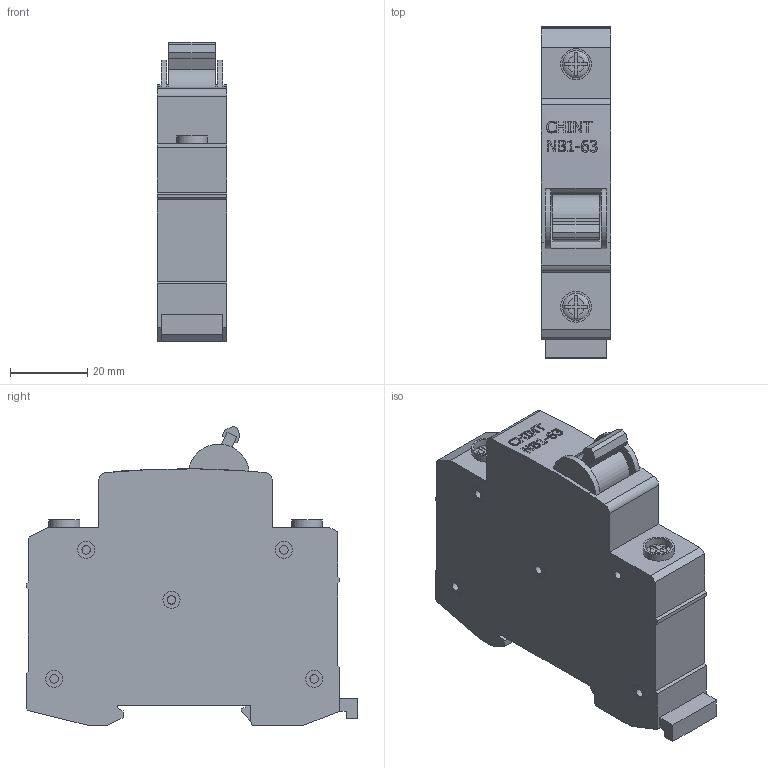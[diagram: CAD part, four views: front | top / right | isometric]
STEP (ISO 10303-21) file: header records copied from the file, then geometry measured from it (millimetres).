
FILE_DESCRIPTION(/* description */ (''),/* implementation_level */ '2;1');
FILE_NAME(/* name */ 'D:\CHINT\NB1-63\Авт. выкл. NB1-63 1P 16A 6кА х-ка B (DB) (CHINT).stp',/* time_stamp */ '2017-09-03T19:14:49+04:00',/* author */ ('RSagdiev'),/* organization */ (''),/* preprocessor_version */ 'ST-DEVELOPER v16.5',/* originating_system */ 'Autodesk Inventor 2017',/* authorisation */ '');
FILE_SCHEMA (('AUTOMOTIVE_DESIGN { 1 0 10303 214 3 1 1 }'));
Length unit declared in the file: millimetre
Products named in the file (1): Авт. выкл. NB1-63 1P 16A 6\X2\043A
0410\X0\ х-ка B (DB) (CHINT)
Bounding box: 18 x 86 x 77.58 mm (x, y, z)
Volume: 83084.4 mm3; surface area: 19286.8 mm2
Topology: 16 solids, 16 shells, 370 faces, 924 edges, 614 vertices
Faces by surface type: plane 241, bspline 69, cylinder 58, torus 2
Full cylindrical faces by diameter (mm): 2.211 x15, 4.422 x15, 7 x2, 8 x2
Entity records: 12150 total; most frequent: CARTESIAN_POINT 3621, ORIENTED_EDGE 1772, DIRECTION 1570, EDGE_CURVE 886, VERTEX_POINT 612, LINE 530, VECTOR 530, AXIS2_PLACEMENT_3D 520
